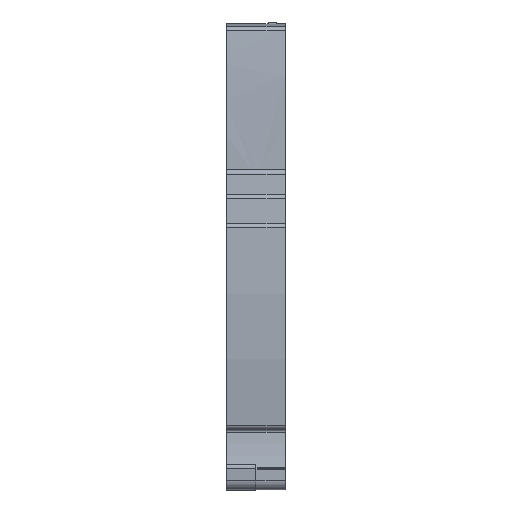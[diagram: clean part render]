
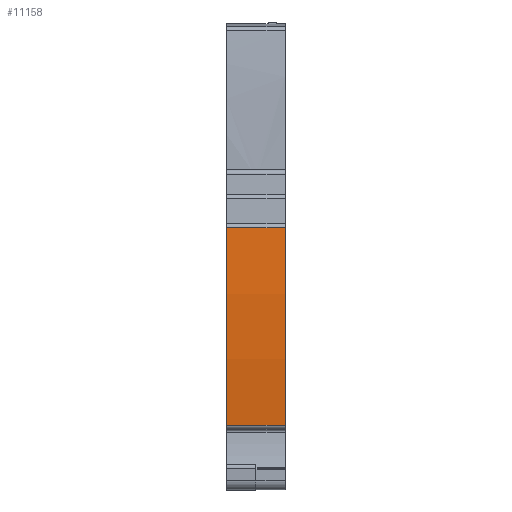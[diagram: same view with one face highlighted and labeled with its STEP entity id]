
A CAD part, front view. The second image highlights one B-rep face of the part: STEP entity #11158.
In plain terms, the highlighted cylindrical face has radius 202 mm (diameter 404 mm), a partial arc.
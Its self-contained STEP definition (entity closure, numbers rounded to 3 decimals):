
#1414=AXIS2_PLACEMENT_3D('Circle Axis2P3D',#1412,#1413,$) ;
#2836=AXIS2_PLACEMENT_3D('Circle Axis2P3D',#2834,#2835,$) ;
#11145=AXIS2_PLACEMENT_3D('Cylinder Axis2P3D',#11142,#11143,#11144) ;
#1409=CARTESIAN_POINT('Vertex',(0.,1.531,13.327)) ;
#1412=CARTESIAN_POINT('Axis2P3D Location',(0.,202.,38.15)) ;
#1416=CARTESIAN_POINT('Vertex',(0.,0.609,53.828)) ;
#2831=CARTESIAN_POINT('Vertex',(12.05,0.609,53.828)) ;
#2834=CARTESIAN_POINT('Axis2P3D Location',(12.05,202.,38.15)) ;
#2838=CARTESIAN_POINT('Vertex',(12.05,1.531,13.327)) ;
#11129=CARTESIAN_POINT('Line Origine',(2.39,1.531,13.327)) ;
#11142=CARTESIAN_POINT('Axis2P3D Location',(2.55,202.,38.15)) ;
#11147=CARTESIAN_POINT('Line Origine',(2.55,0.609,53.828)) ;
#1413=DIRECTION('Axis2P3D Direction',(1.,0.,0.)) ;
#2835=DIRECTION('Axis2P3D Direction',(1.,0.,0.)) ;
#11130=DIRECTION('Vector Direction',(1.,0.,0.)) ;
#11143=DIRECTION('Axis2P3D Direction',(1.,0.,0.)) ;
#11144=DIRECTION('Axis2P3D XDirection',(0.,-0.997,0.082)) ;
#11148=DIRECTION('Vector Direction',(1.,0.,0.)) ;
#11131=VECTOR('Line Direction',#11130,1.) ;
#11149=VECTOR('Line Direction',#11148,1.) ;
#11153=ORIENTED_EDGE('',*,*,#1418,.T.) ;
#11154=ORIENTED_EDGE('',*,*,#11133,.F.) ;
#11155=ORIENTED_EDGE('',*,*,#2840,.F.) ;
#11156=ORIENTED_EDGE('',*,*,#11151,.T.) ;
#11158=ADVANCED_FACE('KLEMME',(#11157),#11146,.T.) ;
#1415=CIRCLE('generated circle',#1414,202.) ;
#2837=CIRCLE('generated circle',#2836,202.) ;
#11146=CYLINDRICAL_SURFACE('generated cylinder',#11145,202.) ;
#1418=EDGE_CURVE('',#1417,#1410,#1415,.T.) ;
#2840=EDGE_CURVE('',#2832,#2839,#2837,.T.) ;
#11133=EDGE_CURVE('',#2839,#1410,#11132,.F.) ;
#11151=EDGE_CURVE('',#2832,#1417,#11150,.F.) ;
#11152=EDGE_LOOP('',(#11153,#11154,#11155,#11156)) ;
#11157=FACE_OUTER_BOUND('',#11152,.T.) ;
#11132=LINE('Line',#11129,#11131) ;
#11150=LINE('Line',#11147,#11149) ;
#1410=VERTEX_POINT('',#1409) ;
#1417=VERTEX_POINT('',#1416) ;
#2832=VERTEX_POINT('',#2831) ;
#2839=VERTEX_POINT('',#2838) ;
